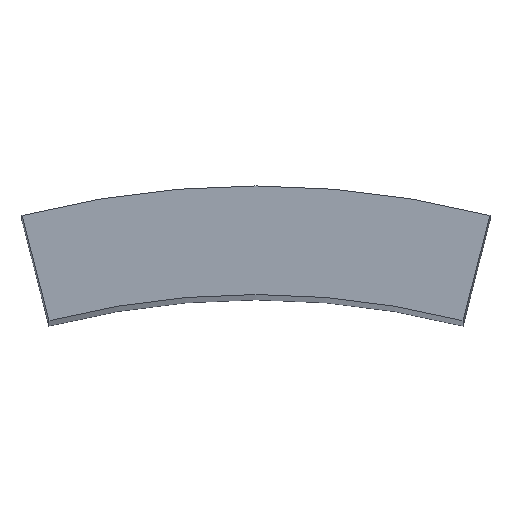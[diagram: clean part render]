
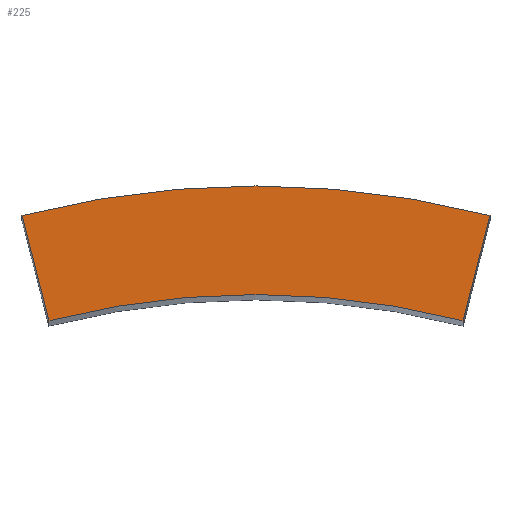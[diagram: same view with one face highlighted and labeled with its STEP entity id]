
A CAD part, top view. The second image highlights one B-rep face of the part: STEP entity #225.
In plain terms, the highlighted planar face has unit normal (0, 0, 1).
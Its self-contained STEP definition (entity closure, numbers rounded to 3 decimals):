
#24 = VERTEX_POINT('',#25);
#25 = CARTESIAN_POINT('',(5.72,22.277,100.));
#31 = EDGE_CURVE('',#24,#32,#34,.T.);
#32 = VERTEX_POINT('',#33);
#33 = CARTESIAN_POINT('',(6.466,25.183,100.));
#34 = LINE('',#35,#36);
#35 = CARTESIAN_POINT('',(5.72,22.277,100.));
#36 = VECTOR('',#37,1.);
#37 = DIRECTION('',(0.249,0.969,0.));
#62 = EDGE_CURVE('',#32,#63,#65,.T.);
#63 = VERTEX_POINT('',#64);
#64 = CARTESIAN_POINT('',(0.,26.,100.));
#65 = CIRCLE('',#66,26.);
#66 = AXIS2_PLACEMENT_3D('',#67,#68,#69);
#67 = CARTESIAN_POINT('',(0.,0.,100.));
#68 = DIRECTION('',(0.,0.,1.));
#69 = DIRECTION('',(0.249,0.969,-0.));
#95 = EDGE_CURVE('',#63,#96,#98,.T.);
#96 = VERTEX_POINT('',#97);
#97 = CARTESIAN_POINT('',(-6.466,25.183,100.));
#98 = CIRCLE('',#99,26.);
#99 = AXIS2_PLACEMENT_3D('',#100,#101,#102);
#100 = CARTESIAN_POINT('',(0.,0.,100.));
#101 = DIRECTION('',(0.,0.,1.));
#102 = DIRECTION('',(0.,1.,0.));
#128 = EDGE_CURVE('',#96,#129,#131,.T.);
#129 = VERTEX_POINT('',#130);
#130 = CARTESIAN_POINT('',(-5.72,22.277,100.));
#131 = LINE('',#132,#133);
#132 = CARTESIAN_POINT('',(-6.466,25.183,100.));
#133 = VECTOR('',#134,1.);
#134 = DIRECTION('',(0.249,-0.969,0.));
#159 = EDGE_CURVE('',#129,#160,#162,.T.);
#160 = VERTEX_POINT('',#161);
#161 = CARTESIAN_POINT('',(0.,23.,100.));
#162 = CIRCLE('',#163,23.);
#163 = AXIS2_PLACEMENT_3D('',#164,#165,#166);
#164 = CARTESIAN_POINT('',(0.,0.,100.)
  );
#165 = DIRECTION('',(0.,0.,-1.));
#166 = DIRECTION('',(-0.249,0.969,0.));
#192 = EDGE_CURVE('',#160,#24,#193,.T.);
#193 = CIRCLE('',#194,23.);
#194 = AXIS2_PLACEMENT_3D('',#195,#196,#197);
#195 = CARTESIAN_POINT('',(0.,0.,100.));
#196 = DIRECTION('',(0.,0.,-1.));
#197 = DIRECTION('',(0.,1.,0.));
#225 = ADVANCED_FACE('',(#226),#234,.T.);
#226 = FACE_BOUND('',#227,.T.);
#227 = EDGE_LOOP('',(#228,#229,#230,#231,#232,#233));
#228 = ORIENTED_EDGE('',*,*,#31,.T.);
#229 = ORIENTED_EDGE('',*,*,#62,.T.);
#230 = ORIENTED_EDGE('',*,*,#95,.T.);
#231 = ORIENTED_EDGE('',*,*,#128,.T.);
#232 = ORIENTED_EDGE('',*,*,#159,.T.);
#233 = ORIENTED_EDGE('',*,*,#192,.T.);
#234 = PLANE('',#235);
#235 = AXIS2_PLACEMENT_3D('',#236,#237,#238);
#236 = CARTESIAN_POINT('',(0.,24.204,100.));
#237 = DIRECTION('',(0.,0.,1.));
#238 = DIRECTION('',(1.,0.,-0.));
